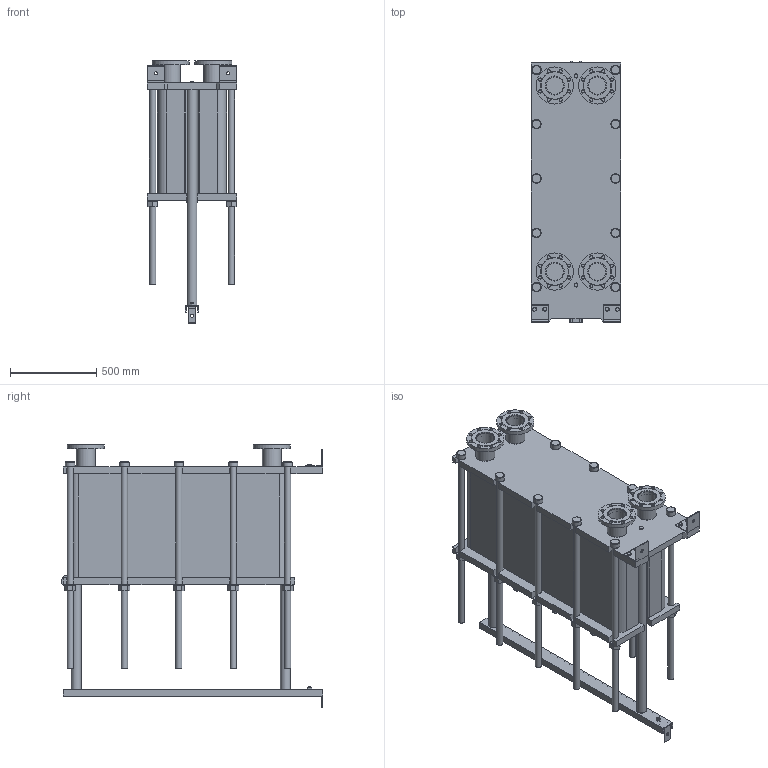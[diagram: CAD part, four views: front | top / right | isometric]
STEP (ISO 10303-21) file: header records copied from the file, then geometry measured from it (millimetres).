
FILE_DESCRIPTION(/* description */ (''),/* implementation_level */ '2;1');
FILE_NAME(/* name */ 'C:\Users\zhuro\Desktop\ENCO\TO\ЭН-04\ЭН-0,5-04-174-1.stp',/* time_stamp */ '2022-06-06T11:00:25+03:00',/* author */ ('zhuro'),/* organization */ (''),/* preprocessor_version */ 'ST-DEVELOPER v18.1',/* originating_system */ 'Autodesk Inventor 2022',/* authorisation */ '');
FILE_SCHEMA (('AUTOMOTIVE_DESIGN { 1 0 10303 214 3 1 1 }'));
Length unit declared in the file: millimetre
Products named in the file (1): ЭН-0,5-04-174-1
Bounding box: 520 x 1510 x 1522 mm (x, y, z)
Volume: 375192954.4 mm3; surface area: 9982528.9 mm2
Topology: 45 solids, 45 shells, 668 faces, 1611 edges, 1048 vertices
Faces by surface type: plane 457, cylinder 166, cone 39, torus 6
Full cylindrical faces by diameter (mm): 8 x4, 10 x2, 16 x8, 18 x35, 36 x25, 40 x2, 42 x1, 45 x4, 54 x10, 57 x2, 60 x10, 68 x2, 100 x4, 110 x8, 215 x4
Entity records: 23607 total; most frequent: CARTESIAN_POINT 7348, DIRECTION 3371, ORIENTED_EDGE 3142, EDGE_CURVE 1571, AXIS2_PLACEMENT_3D 1199, VERTEX_POINT 1044, LINE 973, VECTOR 973
